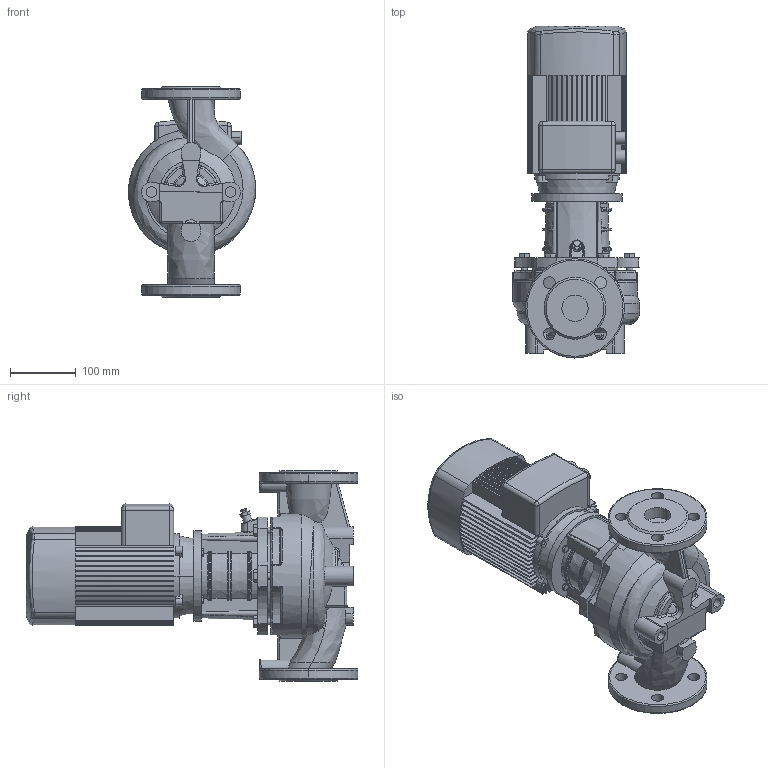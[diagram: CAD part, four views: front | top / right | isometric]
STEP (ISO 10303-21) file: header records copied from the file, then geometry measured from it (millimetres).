
FILE_DESCRIPTION(/* description */ (''),/* implementation_level */ '2;1');
FILE_NAME(/* name */ 'TD40-14 16-2安装尺寸图.stp',/* time_stamp */ '2026-09-07T14:55:41+08:00',/* author */ (''),/* organization */ (''),/* preprocessor_version */ 'ST-DEVELOPER v16.7',/* originating_system */ 'SIEMENS PLM Software NX 1847',/* authorisation */ '');
FILE_SCHEMA (('AP203_CONFIGURATION_CONTROLLED_3D_DESIGN_OF_MECHANICAL_PARTS_AND_ASSEMBLIES_MIM_LF { 1 0 10303 403 2 1 2}'));
Length unit declared in the file: millimetre
Products named in the file (1): Admi55F8EAC4yzrs
Bounding box: 193.09 x 504 x 320 mm (x, y, z)
Volume: 9429088.9 mm3; surface area: 713682.8 mm2
Topology: 1 solids, 10 shells, 1002 faces, 2574 edges, 1593 vertices
Faces by surface type: plane 444, cylinder 278, bspline 101, cone 87, torus 58, sphere 34
Full cylindrical faces by diameter (mm): 8 x1, 8.88 x4, 9.732 x6, 10 x8, 12.9 x1, 14.63 x6, 120 x1, 130 x1, 137 x1
Entity records: 36563 total; most frequent: CARTESIAN_POINT 12962, ORIENTED_EDGE 4992, DIRECTION 4843, EDGE_CURVE 2496, AXIS2_PLACEMENT_3D 1894, VERTEX_POINT 1584, EDGE_LOOP 1110, LINE 1055
